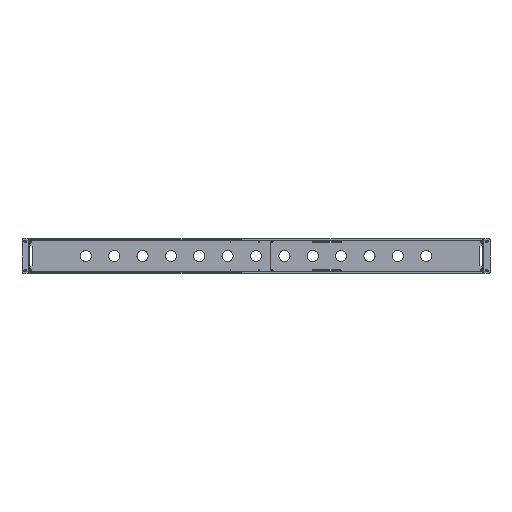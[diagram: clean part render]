
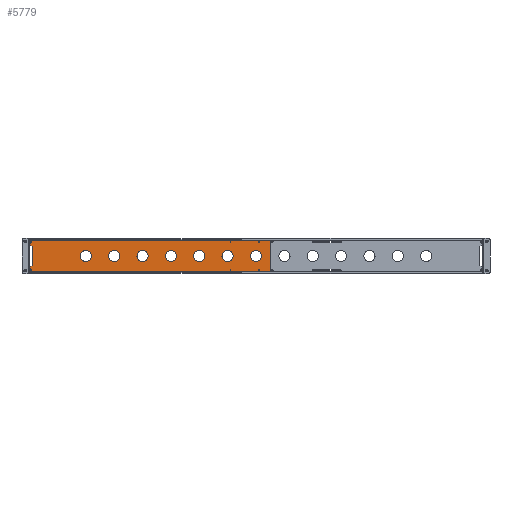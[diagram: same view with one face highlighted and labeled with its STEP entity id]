
A CAD part, top view. The second image highlights one B-rep face of the part: STEP entity #5779.
In plain terms, the highlighted planar face has unit normal (0, 0, 1).
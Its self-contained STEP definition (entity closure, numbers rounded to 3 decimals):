
#4702=FACE_BOUND('',#8788,.T.);
#4703=FACE_BOUND('',#8789,.T.);
#4704=FACE_BOUND('',#8790,.T.);
#4705=FACE_BOUND('',#8791,.T.);
#4706=FACE_BOUND('',#8792,.T.);
#4707=FACE_BOUND('',#8793,.T.);
#4708=FACE_BOUND('',#8794,.T.);
#4709=FACE_BOUND('',#8795,.T.);
#4710=FACE_BOUND('',#8796,.T.);
#4711=FACE_BOUND('',#8797,.T.);
#4712=FACE_BOUND('',#8798,.T.);
#4713=FACE_BOUND('',#8799,.T.);
#5032=PLANE('',#29216);
#5779=ADVANCED_FACE('',(#4702,#4703,#4704,#4705,#4706,#4707,#4708,#4709,
#4710,#4711,#4712,#4713),#5032,.T.);
#8788=EDGE_LOOP('',(#14730));
#8789=EDGE_LOOP('',(#14731));
#8790=EDGE_LOOP('',(#14732));
#8791=EDGE_LOOP('',(#14733));
#8792=EDGE_LOOP('',(#14734,#14735,#14736,#14737,#14738,#14739,#14740,#14741,
#14742,#14743,#14744,#14745));
#8793=EDGE_LOOP('',(#14746));
#8794=EDGE_LOOP('',(#14747));
#8795=EDGE_LOOP('',(#14748));
#8796=EDGE_LOOP('',(#14749));
#8797=EDGE_LOOP('',(#14750));
#8798=EDGE_LOOP('',(#14751));
#8799=EDGE_LOOP('',(#14752));
#10378=LINE('',#38489,#12444);
#10379=LINE('',#38493,#12445);
#10384=LINE('',#38507,#12450);
#10388=LINE('',#38519,#12454);
#10391=LINE('',#38529,#12457);
#10396=LINE('',#38542,#12462);
#10397=LINE('',#38546,#12463);
#10398=LINE('',#38550,#12464);
#12444=VECTOR('',#31723,1.);
#12445=VECTOR('',#31728,1.);
#12450=VECTOR('',#31741,1.);
#12454=VECTOR('',#31753,1.);
#12457=VECTOR('',#31764,1.);
#12462=VECTOR('',#31777,1.);
#12463=VECTOR('',#31782,1.);
#12464=VECTOR('',#31787,1.);
#14730=ORIENTED_EDGE('',*,*,#24532,.F.);
#14731=ORIENTED_EDGE('',*,*,#24533,.F.);
#14732=ORIENTED_EDGE('',*,*,#24530,.F.);
#14733=ORIENTED_EDGE('',*,*,#24528,.F.);
#14734=ORIENTED_EDGE('',*,*,#24526,.T.);
#14735=ORIENTED_EDGE('',*,*,#24524,.F.);
#14736=ORIENTED_EDGE('',*,*,#24522,.F.);
#14737=ORIENTED_EDGE('',*,*,#24518,.T.);
#14738=ORIENTED_EDGE('',*,*,#24515,.T.);
#14739=ORIENTED_EDGE('',*,*,#24513,.T.);
#14740=ORIENTED_EDGE('',*,*,#24510,.T.);
#14741=ORIENTED_EDGE('',*,*,#24507,.T.);
#14742=ORIENTED_EDGE('',*,*,#24504,.T.);
#14743=ORIENTED_EDGE('',*,*,#24500,.T.);
#14744=ORIENTED_EDGE('',*,*,#24497,.F.);
#14745=ORIENTED_EDGE('',*,*,#24495,.F.);
#14746=ORIENTED_EDGE('',*,*,#24492,.F.);
#14747=ORIENTED_EDGE('',*,*,#24490,.F.);
#14748=ORIENTED_EDGE('',*,*,#24488,.F.);
#14749=ORIENTED_EDGE('',*,*,#24486,.F.);
#14750=ORIENTED_EDGE('',*,*,#24484,.F.);
#14751=ORIENTED_EDGE('',*,*,#24482,.F.);
#14752=ORIENTED_EDGE('',*,*,#24480,.F.);
#21920=VERTEX_POINT('',#38453);
#21922=VERTEX_POINT('',#38458);
#21924=VERTEX_POINT('',#38463);
#21926=VERTEX_POINT('',#38468);
#21928=VERTEX_POINT('',#38473);
#21930=VERTEX_POINT('',#38478);
#21932=VERTEX_POINT('',#38483);
#21934=VERTEX_POINT('',#38488);
#21935=VERTEX_POINT('',#38490);
#21936=VERTEX_POINT('',#38494);
#21938=VERTEX_POINT('',#38500);
#21941=VERTEX_POINT('',#38508);
#21943=VERTEX_POINT('',#38514);
#21945=VERTEX_POINT('',#38520);
#21947=VERTEX_POINT('',#38526);
#21948=VERTEX_POINT('',#38530);
#21950=VERTEX_POINT('',#38536);
#21952=VERTEX_POINT('',#38543);
#21953=VERTEX_POINT('',#38547);
#21954=VERTEX_POINT('',#38554);
#21956=VERTEX_POINT('',#38559);
#21958=VERTEX_POINT('',#38564);
#21959=VERTEX_POINT('',#38566);
#24480=EDGE_CURVE('',#21920,#21920,#28106,.T.);
#24482=EDGE_CURVE('',#21922,#21922,#28108,.T.);
#24484=EDGE_CURVE('',#21924,#21924,#28110,.T.);
#24486=EDGE_CURVE('',#21926,#21926,#28112,.T.);
#24488=EDGE_CURVE('',#21928,#21928,#28114,.T.);
#24490=EDGE_CURVE('',#21930,#21930,#28116,.T.);
#24492=EDGE_CURVE('',#21932,#21932,#28118,.T.);
#24495=EDGE_CURVE('',#21934,#21935,#10378,.T.);
#24497=EDGE_CURVE('',#21935,#21936,#10379,.T.);
#24500=EDGE_CURVE('',#21938,#21936,#28122,.T.);
#24504=EDGE_CURVE('',#21941,#21938,#10384,.T.);
#24507=EDGE_CURVE('',#21943,#21941,#28125,.T.);
#24510=EDGE_CURVE('',#21945,#21943,#10388,.T.);
#24513=EDGE_CURVE('',#21947,#21945,#28127,.T.);
#24515=EDGE_CURVE('',#21948,#21947,#10391,.T.);
#24518=EDGE_CURVE('',#21950,#21948,#28128,.T.);
#24522=EDGE_CURVE('',#21950,#21952,#10396,.T.);
#24524=EDGE_CURVE('',#21952,#21953,#10397,.T.);
#24526=EDGE_CURVE('',#21934,#21953,#10398,.T.);
#24528=EDGE_CURVE('',#21954,#21954,#28132,.T.);
#24530=EDGE_CURVE('',#21956,#21956,#28134,.T.);
#24532=EDGE_CURVE('',#21958,#21958,#28136,.T.);
#24533=EDGE_CURVE('',#21959,#21959,#28137,.T.);
#28106=CIRCLE('',#29163,20.);
#28108=CIRCLE('',#29166,20.);
#28110=CIRCLE('',#29169,20.);
#28112=CIRCLE('',#29172,20.);
#28114=CIRCLE('',#29175,20.);
#28116=CIRCLE('',#29178,20.);
#28118=CIRCLE('',#29181,20.);
#28122=CIRCLE('',#29188,1.);
#28125=CIRCLE('',#29193,5.);
#28127=CIRCLE('',#29197,5.);
#28128=CIRCLE('',#29200,1.);
#28132=CIRCLE('',#29208,1.65);
#28134=CIRCLE('',#29211,1.65);
#28136=CIRCLE('',#29214,1.65);
#28137=CIRCLE('',#29215,1.65);
#29163=AXIS2_PLACEMENT_3D('',#38452,#31679,#31680);
#29166=AXIS2_PLACEMENT_3D('',#38457,#31685,#31686);
#29169=AXIS2_PLACEMENT_3D('',#38462,#31691,#31692);
#29172=AXIS2_PLACEMENT_3D('',#38467,#31697,#31698);
#29175=AXIS2_PLACEMENT_3D('',#38472,#31703,#31704);
#29178=AXIS2_PLACEMENT_3D('',#38477,#31709,#31710);
#29181=AXIS2_PLACEMENT_3D('',#38482,#31715,#31716);
#29188=AXIS2_PLACEMENT_3D('',#38499,#31733,#31734);
#29193=AXIS2_PLACEMENT_3D('',#38513,#31747,#31748);
#29197=AXIS2_PLACEMENT_3D('',#38525,#31759,#31760);
#29200=AXIS2_PLACEMENT_3D('',#38535,#31769,#31770);
#29208=AXIS2_PLACEMENT_3D('',#38553,#31791,#31792);
#29211=AXIS2_PLACEMENT_3D('',#38558,#31797,#31798);
#29214=AXIS2_PLACEMENT_3D('',#38563,#31803,#31804);
#29215=AXIS2_PLACEMENT_3D('',#38565,#31805,#31806);
#29216=AXIS2_PLACEMENT_3D('',#38567,#31807,#31808);
#31679=DIRECTION('',(0.,0.,1.));
#31680=DIRECTION('',(1.,0.,0.));
#31685=DIRECTION('',(0.,0.,1.));
#31686=DIRECTION('',(1.,0.,0.));
#31691=DIRECTION('',(0.,0.,1.));
#31692=DIRECTION('',(1.,0.,0.));
#31697=DIRECTION('',(0.,0.,1.));
#31698=DIRECTION('',(1.,0.,0.));
#31703=DIRECTION('',(0.,0.,1.));
#31704=DIRECTION('',(1.,0.,0.));
#31709=DIRECTION('',(0.,0.,1.));
#31710=DIRECTION('',(1.,0.,0.));
#31715=DIRECTION('',(0.,0.,1.));
#31716=DIRECTION('',(1.,0.,0.));
#31723=DIRECTION('',(-1.,0.,0.));
#31728=DIRECTION('',(0.,1.,0.));
#31733=DIRECTION('',(0.,0.,1.));
#31734=DIRECTION('',(1.,0.,0.));
#31741=DIRECTION('',(-0.707,-0.707,0.));
#31747=DIRECTION('',(0.,0.,-1.));
#31748=DIRECTION('',(1.,0.,0.));
#31753=DIRECTION('',(0.,-1.,0.));
#31759=DIRECTION('',(0.,0.,-1.));
#31760=DIRECTION('',(1.,0.,0.));
#31764=DIRECTION('',(0.707,-0.707,0.));
#31769=DIRECTION('',(0.,0.,1.));
#31770=DIRECTION('',(1.,0.,0.));
#31777=DIRECTION('',(0.,1.,0.));
#31782=DIRECTION('',(1.,0.,0.));
#31787=DIRECTION('',(0.,1.,0.));
#31791=DIRECTION('',(0.,0.,1.));
#31792=DIRECTION('',(1.,0.,0.));
#31797=DIRECTION('',(0.,0.,1.));
#31798=DIRECTION('',(1.,0.,0.));
#31803=DIRECTION('',(0.,0.,1.));
#31804=DIRECTION('',(1.,0.,0.));
#31805=DIRECTION('',(0.,0.,1.));
#31806=DIRECTION('',(1.,0.,0.));
#31807=DIRECTION('',(0.,0.,1.));
#31808=DIRECTION('',(0.,-1.,0.));
#38452=CARTESIAN_POINT('',(7615.999,102.55,302.911));
#38453=CARTESIAN_POINT('',(7635.999,102.55,302.911));
#38457=CARTESIAN_POINT('',(7715.999,102.55,302.911));
#38458=CARTESIAN_POINT('',(7735.999,102.55,302.911));
#38462=CARTESIAN_POINT('',(8015.999,102.55,302.911));
#38463=CARTESIAN_POINT('',(8035.999,102.55,302.911));
#38467=CARTESIAN_POINT('',(7815.999,102.55,302.911));
#38468=CARTESIAN_POINT('',(7835.999,102.55,302.911));
#38472=CARTESIAN_POINT('',(8115.999,102.55,302.911));
#38473=CARTESIAN_POINT('',(8135.999,102.55,302.911));
#38477=CARTESIAN_POINT('',(8215.999,102.55,302.911));
#38478=CARTESIAN_POINT('',(8235.999,102.55,302.911));
#38482=CARTESIAN_POINT('',(7915.999,102.55,302.911));
#38483=CARTESIAN_POINT('',(7935.999,102.55,302.911));
#38488=CARTESIAN_POINT('',(8265.999,43.35,302.911));
#38489=CARTESIAN_POINT('',(7680.999,43.35,302.911));
#38490=CARTESIAN_POINT('',(7417.799,43.35,302.911));
#38493=CARTESIAN_POINT('',(7417.799,206.05,302.911));
#38494=CARTESIAN_POINT('',(7417.799,59.636,302.911));
#38499=CARTESIAN_POINT('',(7418.799,59.636,302.911));
#38500=CARTESIAN_POINT('',(7418.092,60.343,302.911));
#38507=CARTESIAN_POINT('',(7622.399,264.65,302.911));
#38508=CARTESIAN_POINT('',(7426.334,68.586,302.911));
#38513=CARTESIAN_POINT('',(7422.799,72.121,302.911));
#38514=CARTESIAN_POINT('',(7427.799,72.121,302.911));
#38519=CARTESIAN_POINT('',(7427.799,206.05,302.911));
#38520=CARTESIAN_POINT('',(7427.799,132.979,302.911));
#38525=CARTESIAN_POINT('',(7422.799,132.979,302.911));
#38526=CARTESIAN_POINT('',(7426.334,136.514,302.911));
#38529=CARTESIAN_POINT('',(7518.899,43.95,302.911));
#38530=CARTESIAN_POINT('',(7418.092,144.757,302.911));
#38535=CARTESIAN_POINT('',(7418.799,145.464,302.911));
#38536=CARTESIAN_POINT('',(7417.799,145.464,302.911));
#38542=CARTESIAN_POINT('',(7417.799,206.05,302.911));
#38543=CARTESIAN_POINT('',(7417.799,161.75,302.911));
#38546=CARTESIAN_POINT('',(7680.999,161.75,302.911));
#38547=CARTESIAN_POINT('',(8265.999,161.75,302.911));
#38550=CARTESIAN_POINT('',(8265.999,206.05,302.911));
#38553=CARTESIAN_POINT('',(8225.999,152.55,302.911));
#38554=CARTESIAN_POINT('',(8227.649,152.55,302.911));
#38558=CARTESIAN_POINT('',(8225.999,52.55,302.911));
#38559=CARTESIAN_POINT('',(8227.649,52.55,302.911));
#38563=CARTESIAN_POINT('',(8125.999,52.55,302.911));
#38564=CARTESIAN_POINT('',(8127.649,52.55,302.911));
#38565=CARTESIAN_POINT('',(8125.999,152.55,302.911));
#38566=CARTESIAN_POINT('',(8127.649,152.55,302.911));
#38567=CARTESIAN_POINT('',(7680.999,206.05,302.911));
